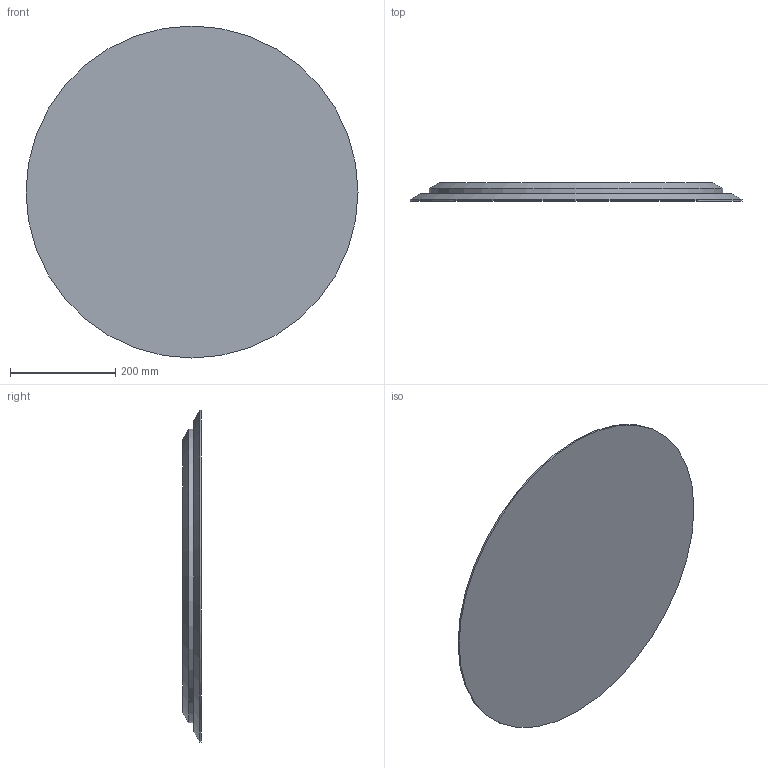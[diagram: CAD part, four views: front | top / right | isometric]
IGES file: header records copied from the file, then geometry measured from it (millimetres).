
Start section: Data from Parasolid IGES Translator 19.0.9, Copyright(c) 2006 Siemens PL M Software. All Rights Reserved.
Global section: file name: noorth-mirror-H 63 D 5,1 W 63_5627.igs; native system: By Siemens PLM Incorporated; preprocessor: XPlus GENERIC/IGES 19.0.9; author: Noname; organization: Noname; date: 20200626.103340; units: metre
Bounding box: 630 x 35 x 630 mm (x, y, z)
Volume: 9103371.3 mm3; surface area: 1351221.9 mm2
Topology: 2 solids, 2 shells, 10 faces, 13 edges, 9 vertices
Faces by surface type: plane 5, cylinder 2, cone 2, extrusion 1
Full cylindrical faces by diameter (mm): 557.254 x1, 630 x1
